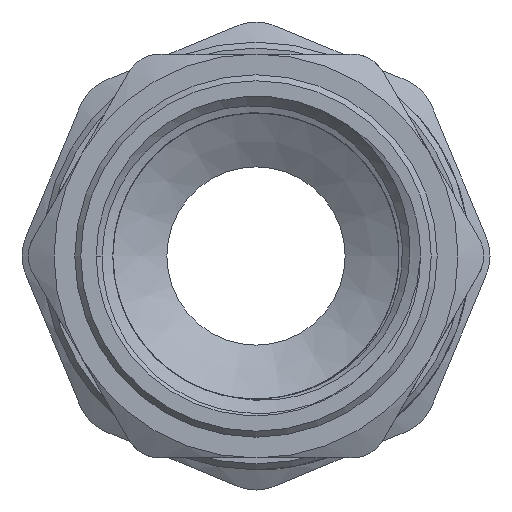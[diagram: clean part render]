
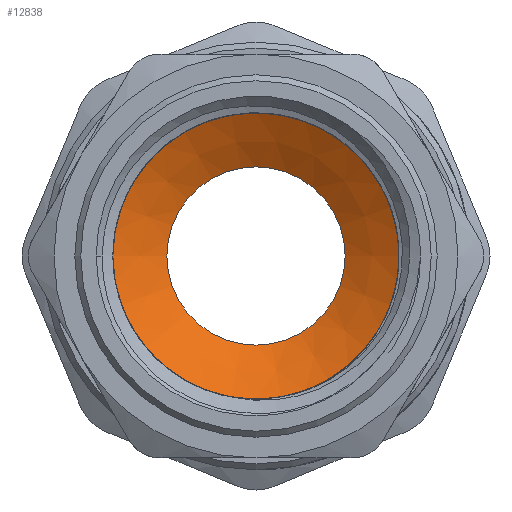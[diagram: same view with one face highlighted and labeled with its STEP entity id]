
A CAD part, left-side view. The second image highlights one B-rep face of the part: STEP entity #12838.
In plain terms, the highlighted conical face has half-angle 60 degrees and reference radius 9.775 mm.
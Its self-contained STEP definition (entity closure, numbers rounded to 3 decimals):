
#640=CONICAL_SURFACE('',#13306,9.775,1.047);
#651=CIRCLE('',#12927,12.05);
#652=CIRCLE('',#12928,12.05);
#775=CIRCLE('',#13307,7.5);
#776=CIRCLE('',#13308,7.5);
#1641=FACE_OUTER_BOUND('',#2386,.T.);
#2386=EDGE_LOOP('',(#11688,#11689,#11690,#11691,#11692,#11693));
#4060=LINE('',#30935,#4838);
#4838=VECTOR('',#15062,9.775);
#4877=VERTEX_POINT('',#15652);
#4878=VERTEX_POINT('',#15654);
#6050=VERTEX_POINT('',#30934);
#6051=VERTEX_POINT('',#30936);
#6209=EDGE_CURVE('',#4878,#4877,#651,.T.);
#6210=EDGE_CURVE('',#4877,#4878,#652,.T.);
#7962=EDGE_CURVE('',#4877,#6050,#4060,.T.);
#7963=EDGE_CURVE('',#6051,#6050,#775,.T.);
#7964=EDGE_CURVE('',#6050,#6051,#776,.T.);
#11688=ORIENTED_EDGE('',*,*,#6209,.T.);
#11689=ORIENTED_EDGE('',*,*,#7962,.T.);
#11690=ORIENTED_EDGE('',*,*,#7963,.F.);
#11691=ORIENTED_EDGE('',*,*,#7964,.F.);
#11692=ORIENTED_EDGE('',*,*,#7962,.F.);
#11693=ORIENTED_EDGE('',*,*,#6210,.T.);
#12838=ADVANCED_FACE('',(#1641),#640,.F.);
#12927=AXIS2_PLACEMENT_3D('',#15655,#13561,#13562);
#12928=AXIS2_PLACEMENT_3D('',#15656,#13563,#13564);
#13306=AXIS2_PLACEMENT_3D('',#30933,#15060,#15061);
#13307=AXIS2_PLACEMENT_3D('',#30937,#15063,#15064);
#13308=AXIS2_PLACEMENT_3D('',#30938,#15065,#15066);
#13561=DIRECTION('center_axis',(-1.,0.,0.));
#13562=DIRECTION('ref_axis',(0.,0.,1.));
#13563=DIRECTION('center_axis',(-1.,0.,0.));
#13564=DIRECTION('ref_axis',(0.,0.,1.));
#15060=DIRECTION('center_axis',(-1.,0.,0.));
#15061=DIRECTION('ref_axis',(0.,-1.,0.));
#15062=DIRECTION('',(0.5,-0.866,0.));
#15063=DIRECTION('center_axis',(-1.,0.,0.));
#15064=DIRECTION('ref_axis',(0.,0.,1.));
#15065=DIRECTION('center_axis',(-1.,0.,0.));
#15066=DIRECTION('ref_axis',(0.,0.,1.));
#15652=CARTESIAN_POINT('',(-3.5,12.05,0.));
#15654=CARTESIAN_POINT('',(-3.5,-12.05,0.));
#15655=CARTESIAN_POINT('Origin',(-3.5,0.,
0.));
#15656=CARTESIAN_POINT('Origin',(-3.5,0.,
0.));
#30933=CARTESIAN_POINT('Origin',(-2.187,0.,
0.));
#30934=CARTESIAN_POINT('',(-0.873,7.5,0.));
#30935=CARTESIAN_POINT('',(-2.187,9.775,0.));
#30936=CARTESIAN_POINT('',(-0.873,-7.5,0.));
#30937=CARTESIAN_POINT('Origin',(-0.873,0.,
0.));
#30938=CARTESIAN_POINT('Origin',(-0.873,0.,
0.));
